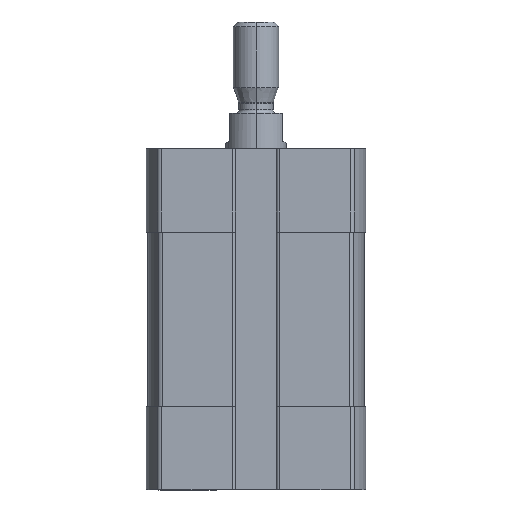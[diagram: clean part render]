
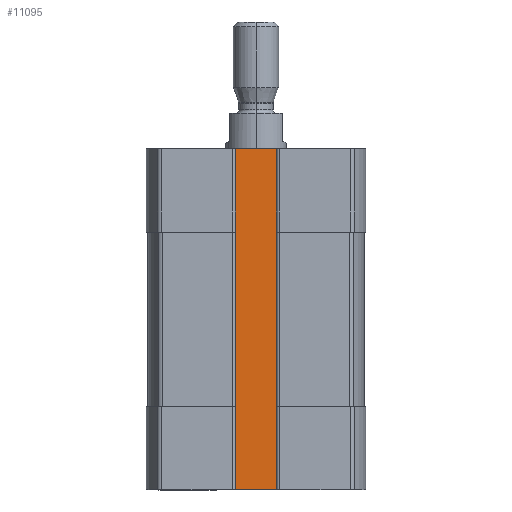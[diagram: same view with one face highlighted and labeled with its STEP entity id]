
A CAD part, left-side view. The second image highlights one B-rep face of the part: STEP entity #11095.
In plain terms, the highlighted planar face has unit normal (-1, 0, 0).
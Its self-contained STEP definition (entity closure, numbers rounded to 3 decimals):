
#82 = VECTOR ( 'NONE', #4159, 1000. ) ;
#121 = VERTEX_POINT ( 'NONE', #3789 ) ;
#335 = CARTESIAN_POINT ( 'NONE',  ( -9.3, 3., 0. ) ) ;
#726 = DIRECTION ( 'NONE',  ( 0., 0., 1. ) ) ;
#1369 = LINE ( 'NONE', #10338, #6138 ) ;
#1454 = ORIENTED_EDGE ( 'NONE', *, *, #11535, .T. ) ;
#1460 = EDGE_CURVE ( 'NONE', #5190, #121, #6341, .T. ) ;
#2513 = LINE ( 'NONE', #8598, #82 ) ;
#2693 = ORIENTED_EDGE ( 'NONE', *, *, #2910, .T. ) ;
#2910 = EDGE_CURVE ( 'NONE', #10356, #5190, #1369, .T. ) ;
#3298 = FACE_OUTER_BOUND ( 'NONE', #11292, .T. ) ;
#3710 = VECTOR ( 'NONE', #8658, 1000. ) ;
#3789 = CARTESIAN_POINT ( 'NONE',  ( -9.3, -3., 0. ) ) ;
#4159 = DIRECTION ( 'NONE',  ( 0., -1., 0. ) ) ;
#4341 = CARTESIAN_POINT ( 'NONE',  ( -9.3, -3., -45. ) ) ;
#4576 = LINE ( 'NONE', #5987, #9060 ) ;
#5187 = CARTESIAN_POINT ( 'NONE',  ( -9.3, 3., -45. ) ) ;
#5190 = VERTEX_POINT ( 'NONE', #4341 ) ;
#5837 = ORIENTED_EDGE ( 'NONE', *, *, #9265, .F. ) ;
#5987 = CARTESIAN_POINT ( 'NONE',  ( -9.3, 3., -45. ) ) ;
#6096 = DIRECTION ( 'NONE',  ( -1., 0., 0. ) ) ;
#6138 = VECTOR ( 'NONE', #7621, 1000. ) ;
#6341 = LINE ( 'NONE', #6783, #3710 ) ;
#6783 = CARTESIAN_POINT ( 'NONE',  ( -9.3, -3., -45. ) ) ;
#7621 = DIRECTION ( 'NONE',  ( 0., -1., 0. ) ) ;
#8598 = CARTESIAN_POINT ( 'NONE',  ( -9.3, -3.1, 0. ) ) ;
#8658 = DIRECTION ( 'NONE',  ( 0., 0., 1. ) ) ;
#9060 = VECTOR ( 'NONE', #11348, 1000. ) ;
#9265 = EDGE_CURVE ( 'NONE', #11377, #121, #2513, .T. ) ;
#9618 = PLANE ( 'NONE',  #10370 ) ;
#10284 = CARTESIAN_POINT ( 'NONE',  ( -9.3, 3., -45. ) ) ;
#10338 = CARTESIAN_POINT ( 'NONE',  ( -9.3, 3., -45. ) ) ;
#10356 = VERTEX_POINT ( 'NONE', #10284 ) ;
#10370 = AXIS2_PLACEMENT_3D ( 'NONE', #5187, #6096, #726 ) ;
#10968 = ORIENTED_EDGE ( 'NONE', *, *, #1460, .T. ) ;
#11095 = ADVANCED_FACE ( 'NONE', ( #3298 ), #9618, .T. ) ;
#11292 = EDGE_LOOP ( 'NONE', ( #2693, #10968, #5837, #1454 ) ) ;
#11348 = DIRECTION ( 'NONE',  ( 0., 0., -1. ) ) ;
#11377 = VERTEX_POINT ( 'NONE', #335 ) ;
#11535 = EDGE_CURVE ( 'NONE', #11377, #10356, #4576, .T. ) ;
